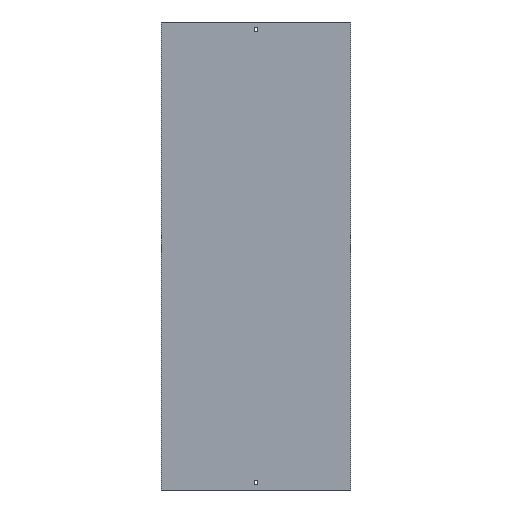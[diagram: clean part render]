
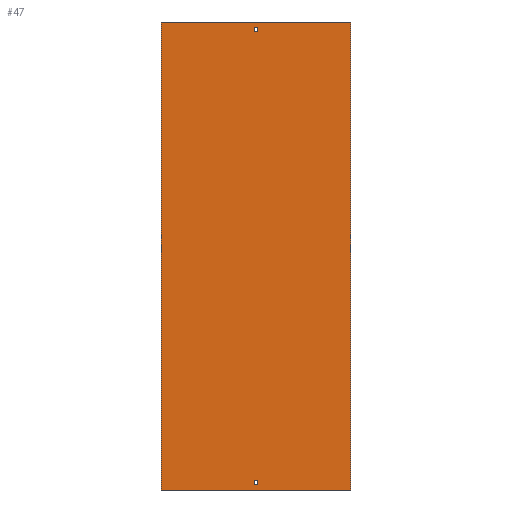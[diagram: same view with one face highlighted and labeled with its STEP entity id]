
A CAD part, front view. The second image highlights one B-rep face of the part: STEP entity #47.
In plain terms, the highlighted planar face has unit normal (0, -1, 0).
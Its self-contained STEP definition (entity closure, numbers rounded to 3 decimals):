
#13 = EDGE_LOOP ( 'NONE', ( #1934, #2485, #2369, #2719 ) ) ;
#23 = LINE ( 'NONE', #629, #680 ) ;
#47 = ADVANCED_FACE ( 'NONE', ( #1796, #1372, #889 ), #2215, .F. ) ;
#48 = DIRECTION ( 'NONE',  ( -1., 0., 0. ) ) ;
#53 = CARTESIAN_POINT ( 'NONE',  ( -202., 0., 500. ) ) ;
#161 = CARTESIAN_POINT ( 'NONE',  ( -202., 0., -500. ) ) ;
#179 = CARTESIAN_POINT ( 'NONE',  ( 3.25, 0., -488. ) ) ;
#195 = ORIENTED_EDGE ( 'NONE', *, *, #1986, .F. ) ;
#238 = VECTOR ( 'NONE', #1553, 1000. ) ;
#263 = VERTEX_POINT ( 'NONE', #1822 ) ;
#264 = CARTESIAN_POINT ( 'NONE',  ( -3.25, 0., -488. ) ) ;
#275 = DIRECTION ( 'NONE',  ( 0., 1., 0. ) ) ;
#322 = EDGE_CURVE ( 'NONE', #2332, #1683, #617, .T. ) ;
#376 = EDGE_CURVE ( 'NONE', #1683, #611, #1692, .T. ) ;
#435 = CARTESIAN_POINT ( 'NONE',  ( -3.25, 0., 488. ) ) ;
#436 = ORIENTED_EDGE ( 'NONE', *, *, #730, .F. ) ;
#447 = CARTESIAN_POINT ( 'NONE',  ( 202., 0., -500. ) ) ;
#475 = EDGE_CURVE ( 'NONE', #1801, #1620, #1571, .T. ) ;
#508 = ORIENTED_EDGE ( 'NONE', *, *, #759, .T. ) ;
#566 = EDGE_CURVE ( 'NONE', #1435, #2224, #916, .T. ) ;
#588 = ORIENTED_EDGE ( 'NONE', *, *, #2164, .T. ) ;
#611 = VERTEX_POINT ( 'NONE', #1807 ) ;
#617 = LINE ( 'NONE', #856, #632 ) ;
#626 = CARTESIAN_POINT ( 'NONE',  ( 3.25, 0., 488. ) ) ;
#629 = CARTESIAN_POINT ( 'NONE',  ( -202., 0., -500. ) ) ;
#632 = VECTOR ( 'NONE', #2530, 1000. ) ;
#635 = VECTOR ( 'NONE', #676, 1000. ) ;
#676 = DIRECTION ( 'NONE',  ( 1., 0., 0. ) ) ;
#680 = VECTOR ( 'NONE', #1247, 1000. ) ;
#687 = CARTESIAN_POINT ( 'NONE',  ( 3.25, 0., 479. ) ) ;
#715 = CARTESIAN_POINT ( 'NONE',  ( -3.25, 0., 488. ) ) ;
#730 = EDGE_CURVE ( 'NONE', #2423, #263, #1271, .T. ) ;
#759 = EDGE_CURVE ( 'NONE', #1620, #1435, #2115, .T. ) ;
#788 = LINE ( 'NONE', #2076, #2410 ) ;
#856 = CARTESIAN_POINT ( 'NONE',  ( -3.25, 0., 479. ) ) ;
#889 = FACE_BOUND ( 'NONE', #1062, .T. ) ;
#916 = LINE ( 'NONE', #2405, #2233 ) ;
#969 = EDGE_CURVE ( 'NONE', #2224, #1801, #788, .T. ) ;
#979 = CARTESIAN_POINT ( 'NONE',  ( -3.25, 0., 488. ) ) ;
#1062 = EDGE_LOOP ( 'NONE', ( #2634, #1423, #508, #2007 ) ) ;
#1064 = DIRECTION ( 'NONE',  ( -1., 0., 0. ) ) ;
#1162 = VECTOR ( 'NONE', #2740, 1000. ) ;
#1181 = VECTOR ( 'NONE', #1490, 1000. ) ;
#1195 = VERTEX_POINT ( 'NONE', #715 ) ;
#1247 = DIRECTION ( 'NONE',  ( 1., 0., 0. ) ) ;
#1271 = LINE ( 'NONE', #2090, #1744 ) ;
#1372 = FACE_BOUND ( 'NONE', #13, .T. ) ;
#1401 = VECTOR ( 'NONE', #1064, 1000. ) ;
#1411 = CARTESIAN_POINT ( 'NONE',  ( -202., 0., 500. ) ) ;
#1423 = ORIENTED_EDGE ( 'NONE', *, *, #475, .T. ) ;
#1435 = VERTEX_POINT ( 'NONE', #1936 ) ;
#1460 = CARTESIAN_POINT ( 'NONE',  ( 3.25, 0., -479. ) ) ;
#1461 = DIRECTION ( 'NONE',  ( 0., 0., -1. ) ) ;
#1490 = DIRECTION ( 'NONE',  ( 0., 0., -1. ) ) ;
#1553 = DIRECTION ( 'NONE',  ( 0., 0., -1. ) ) ;
#1571 = LINE ( 'NONE', #1765, #635 ) ;
#1578 = CARTESIAN_POINT ( 'NONE',  ( -3.25, 0., 479. ) ) ;
#1591 = DIRECTION ( 'NONE',  ( 0., 0., -1. ) ) ;
#1620 = VERTEX_POINT ( 'NONE', #1460 ) ;
#1651 = CARTESIAN_POINT ( 'NONE',  ( -202., 0., 500. ) ) ;
#1683 = VERTEX_POINT ( 'NONE', #687 ) ;
#1692 = LINE ( 'NONE', #626, #1162 ) ;
#1718 = LINE ( 'NONE', #435, #1401 ) ;
#1725 = LINE ( 'NONE', #2578, #238 ) ;
#1744 = VECTOR ( 'NONE', #2319, 1000. ) ;
#1754 = VECTOR ( 'NONE', #1591, 1000. ) ;
#1761 = EDGE_LOOP ( 'NONE', ( #588, #195, #436, #2560 ) ) ;
#1765 = CARTESIAN_POINT ( 'NONE',  ( -3.25, 0., -479. ) ) ;
#1785 = AXIS2_PLACEMENT_3D ( 'NONE', #53, #275, #2439 ) ;
#1787 = CARTESIAN_POINT ( 'NONE',  ( -3.25, 0., -479. ) ) ;
#1796 = FACE_OUTER_BOUND ( 'NONE', #1761, .T. ) ;
#1801 = VERTEX_POINT ( 'NONE', #1787 ) ;
#1807 = CARTESIAN_POINT ( 'NONE',  ( 3.25, 0., 488. ) ) ;
#1822 = CARTESIAN_POINT ( 'NONE',  ( 202., 0., 500. ) ) ;
#1934 = ORIENTED_EDGE ( 'NONE', *, *, #322, .F. ) ;
#1936 = CARTESIAN_POINT ( 'NONE',  ( 3.25, 0., -488. ) ) ;
#1986 = EDGE_CURVE ( 'NONE', #263, #2132, #1725, .T. ) ;
#2007 = ORIENTED_EDGE ( 'NONE', *, *, #566, .T. ) ;
#2030 = DIRECTION ( 'NONE',  ( 0., 0., 1. ) ) ;
#2076 = CARTESIAN_POINT ( 'NONE',  ( -3.25, 0., -488. ) ) ;
#2090 = CARTESIAN_POINT ( 'NONE',  ( -202., 0., 500. ) ) ;
#2099 = EDGE_CURVE ( 'NONE', #611, #1195, #1718, .T. ) ;
#2103 = VECTOR ( 'NONE', #1461, 1000. ) ;
#2115 = LINE ( 'NONE', #179, #2103 ) ;
#2132 = VERTEX_POINT ( 'NONE', #447 ) ;
#2164 = EDGE_CURVE ( 'NONE', #2386, #2132, #23, .T. ) ;
#2215 = PLANE ( 'NONE',  #1785 ) ;
#2224 = VERTEX_POINT ( 'NONE', #264 ) ;
#2233 = VECTOR ( 'NONE', #48, 1000. ) ;
#2272 = LINE ( 'NONE', #979, #1754 ) ;
#2319 = DIRECTION ( 'NONE',  ( 1., 0., 0. ) ) ;
#2332 = VERTEX_POINT ( 'NONE', #1578 ) ;
#2334 = EDGE_CURVE ( 'NONE', #1195, #2332, #2272, .T. ) ;
#2369 = ORIENTED_EDGE ( 'NONE', *, *, #2099, .F. ) ;
#2386 = VERTEX_POINT ( 'NONE', #161 ) ;
#2405 = CARTESIAN_POINT ( 'NONE',  ( -3.25, 0., -488. ) ) ;
#2410 = VECTOR ( 'NONE', #2030, 1000. ) ;
#2423 = VERTEX_POINT ( 'NONE', #1411 ) ;
#2439 = DIRECTION ( 'NONE',  ( -1., 0., 0. ) ) ;
#2485 = ORIENTED_EDGE ( 'NONE', *, *, #2334, .F. ) ;
#2530 = DIRECTION ( 'NONE',  ( 1., 0., 0. ) ) ;
#2546 = EDGE_CURVE ( 'NONE', #2423, #2386, #2754, .T. ) ;
#2560 = ORIENTED_EDGE ( 'NONE', *, *, #2546, .T. ) ;
#2578 = CARTESIAN_POINT ( 'NONE',  ( 202., 0., 500. ) ) ;
#2634 = ORIENTED_EDGE ( 'NONE', *, *, #969, .T. ) ;
#2719 = ORIENTED_EDGE ( 'NONE', *, *, #376, .F. ) ;
#2740 = DIRECTION ( 'NONE',  ( 0., 0., 1. ) ) ;
#2754 = LINE ( 'NONE', #1651, #1181 ) ;
